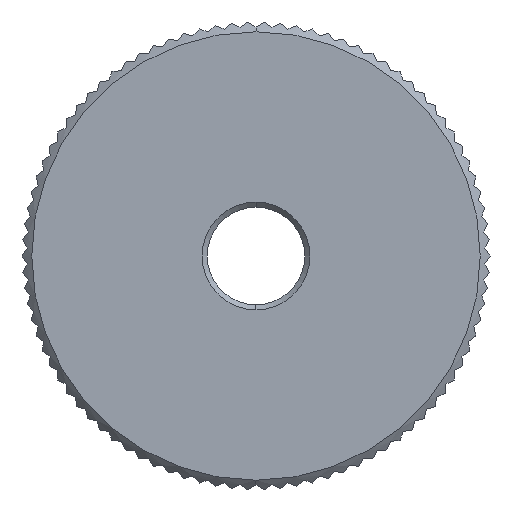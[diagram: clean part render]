
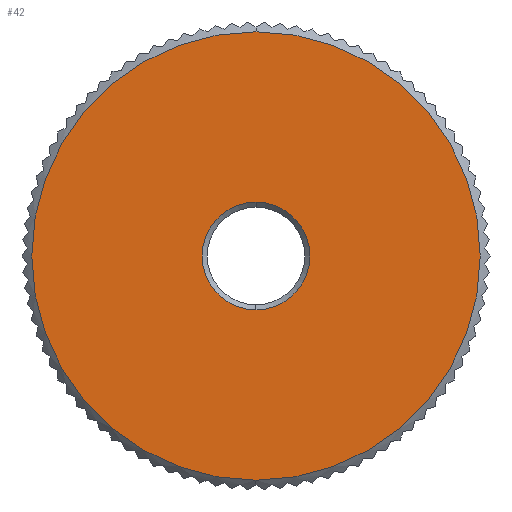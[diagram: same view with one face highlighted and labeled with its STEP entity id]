
A CAD part, left-side view. The second image highlights one B-rep face of the part: STEP entity #42.
In plain terms, the highlighted planar face has unit normal (-1, 0, 0).
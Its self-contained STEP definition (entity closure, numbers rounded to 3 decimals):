
#20 = ORIENTED_EDGE ( 'NONE', *, *, #6154, .T. ) ;
#25 = EDGE_LOOP ( 'NONE', ( #30, #35 ) ) ;
#26 = EDGE_CURVE ( 'NONE', #776, #717, #922, .T. ) ;
#30 = ORIENTED_EDGE ( 'NONE', *, *, #26, .T. ) ;
#31 = EDGE_CURVE ( 'NONE', #6435, #6188, #971, .T. ) ;
#35 = ORIENTED_EDGE ( 'NONE', *, *, #780, .T. ) ;
#40 = ORIENTED_EDGE ( 'NONE', *, *, #31, .T. ) ;
#42 = ADVANCED_FACE ( 'NONE', ( #949, #948 ), #947, .F. ) ;
#83 = EDGE_LOOP ( 'NONE', ( #20, #40 ) ) ;
#717 = VERTEX_POINT ( 'NONE', #2129 ) ;
#776 = VERTEX_POINT ( 'NONE', #2224 ) ;
#780 = EDGE_CURVE ( 'NONE', #717, #776, #2265, .T. ) ;
#919 = DIRECTION ( 'NONE',  ( 0., 0., -1. ) ) ;
#920 = DIRECTION ( 'NONE',  ( -1., 0., 0. ) ) ;
#921 = AXIS2_PLACEMENT_3D ( 'NONE', #928, #920, #919 ) ;
#922 = CIRCLE ( 'NONE', #921, 5.75 ) ;
#928 = CARTESIAN_POINT ( 'NONE',  ( -2.5, 0., 0. ) ) ;
#943 = DIRECTION ( 'NONE',  ( 0., 0., -1. ) ) ;
#944 = DIRECTION ( 'NONE',  ( 1., 0., 0. ) ) ;
#945 = CARTESIAN_POINT ( 'NONE',  ( -2.5, 0., 0. ) ) ;
#946 = AXIS2_PLACEMENT_3D ( 'NONE', #945, #944, #943 ) ;
#947 = PLANE ( 'NONE',  #946 ) ;
#948 = FACE_OUTER_BOUND ( 'NONE', #25, .T. ) ;
#949 = FACE_BOUND ( 'NONE', #83, .T. ) ;
#967 = DIRECTION ( 'NONE',  ( 0., 0., -1. ) ) ;
#968 = DIRECTION ( 'NONE',  ( 1., 0., 0. ) ) ;
#969 = CARTESIAN_POINT ( 'NONE',  ( -2.5, 0., 0. ) ) ;
#970 = AXIS2_PLACEMENT_3D ( 'NONE', #969, #968, #967 ) ;
#971 = CIRCLE ( 'NONE', #970, 1.38 ) ;
#2129 = CARTESIAN_POINT ( 'NONE',  ( -2.5, 0., 5.75 ) ) ;
#2224 = CARTESIAN_POINT ( 'NONE',  ( -2.5, 0., -5.75 ) ) ;
#2261 = DIRECTION ( 'NONE',  ( 0., 0., -1. ) ) ;
#2262 = DIRECTION ( 'NONE',  ( -1., 0., 0. ) ) ;
#2263 = CARTESIAN_POINT ( 'NONE',  ( -2.5, 0., 0. ) ) ;
#2264 = AXIS2_PLACEMENT_3D ( 'NONE', #2263, #2262, #2261 ) ;
#2265 = CIRCLE ( 'NONE', #2264, 5.75 ) ;
#4115 = DIRECTION ( 'NONE',  ( 0., 0., -1. ) ) ;
#4116 = DIRECTION ( 'NONE',  ( 1., 0., 0. ) ) ;
#4117 = AXIS2_PLACEMENT_3D ( 'NONE', #4124, #4116, #4115 ) ;
#4118 = CIRCLE ( 'NONE', #4117, 1.38 ) ;
#4124 = CARTESIAN_POINT ( 'NONE',  ( -2.5, 0., 0. ) ) ;
#4165 = CARTESIAN_POINT ( 'NONE',  ( -2.5, 0., 1.38 ) ) ;
#4592 = CARTESIAN_POINT ( 'NONE',  ( -2.5, 0., -1.38 ) ) ;
#6154 = EDGE_CURVE ( 'NONE', #6188, #6435, #4118, .T. ) ;
#6188 = VERTEX_POINT ( 'NONE', #4165 ) ;
#6435 = VERTEX_POINT ( 'NONE', #4592 ) ;
